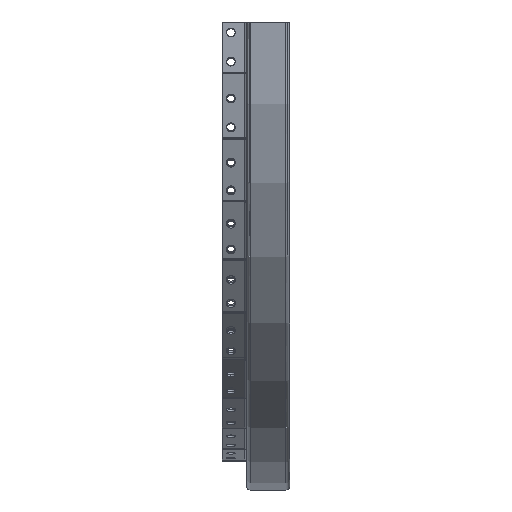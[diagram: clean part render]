
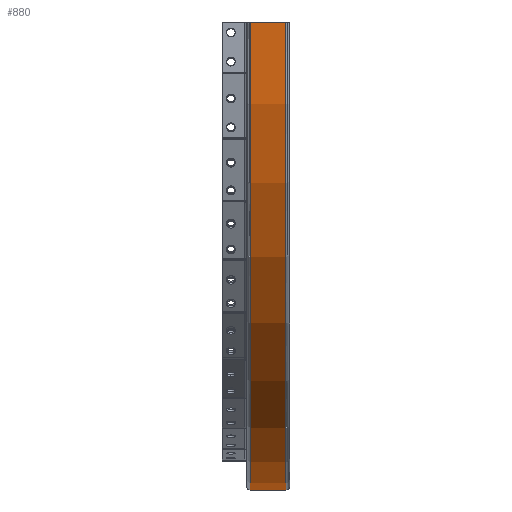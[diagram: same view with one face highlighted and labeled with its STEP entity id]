
A CAD part, left-side view. The second image highlights one B-rep face of the part: STEP entity #880.
In plain terms, the highlighted cylindrical face has radius 389 mm (diameter 778 mm), a partial arc.
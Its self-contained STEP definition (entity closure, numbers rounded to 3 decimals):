
#146=CYLINDRICAL_SURFACE('',#8883,389.);
#502=FACE_OUTER_BOUND('',#3212,.T.);
#880=ADVANCED_FACE('',(#502),#146,.T.);
#1739=LINE('',#13672,#2183);
#1749=LINE('',#13891,#2193);
#2183=VECTOR('',#10628,1.);
#2193=VECTOR('',#10650,1.);
#3212=EDGE_LOOP('',(#4639,#4640,#4641,#4642));
#4639=ORIENTED_EDGE('',*,*,#7505,.T.);
#4640=ORIENTED_EDGE('',*,*,#7361,.T.);
#4641=ORIENTED_EDGE('',*,*,#7506,.F.);
#4642=ORIENTED_EDGE('',*,*,#7336,.T.);
#6577=VERTEX_POINT('',#13671);
#6578=VERTEX_POINT('',#13673);
#6593=VERTEX_POINT('',#13890);
#6594=VERTEX_POINT('',#13892);
#7336=EDGE_CURVE('',#6578,#6577,#1739,.T.);
#7361=EDGE_CURVE('',#6594,#6593,#1749,.T.);
#7505=EDGE_CURVE('',#6577,#6594,#8137,.T.);
#7506=EDGE_CURVE('',#6578,#6593,#8138,.T.);
#8137=CIRCLE('',#8880,389.);
#8138=CIRCLE('',#8882,389.);
#8880=AXIS2_PLACEMENT_3D('',#14420,#10906,#10907);
#8882=AXIS2_PLACEMENT_3D('',#14422,#10910,#10911);
#8883=AXIS2_PLACEMENT_3D('',#14423,#10912,#10913);
#10628=DIRECTION('',(0.,-1.,0.));
#10650=DIRECTION('',(0.,1.,0.));
#10906=DIRECTION('',(0.,1.,0.));
#10907=DIRECTION('',(0.,0.,1.));
#10910=DIRECTION('',(0.,1.,0.));
#10911=DIRECTION('',(0.,0.,1.));
#10912=DIRECTION('',(0.,1.,0.));
#10913=DIRECTION('',(0.,0.,1.));
#13671=CARTESIAN_POINT('',(388.946,2.,-6.5));
#13672=CARTESIAN_POINT('',(388.946,0.,-6.5));
#13673=CARTESIAN_POINT('',(388.946,31.,-6.5));
#13890=CARTESIAN_POINT('',(-388.946,31.,-6.5));
#13891=CARTESIAN_POINT('',(-388.946,0.,-6.5));
#13892=CARTESIAN_POINT('',(-388.946,2.,-6.5));
#14420=CARTESIAN_POINT('',(0.,2.,0.));
#14422=CARTESIAN_POINT('',(0.,31.,0.));
#14423=CARTESIAN_POINT('',(0.,0.,0.));
